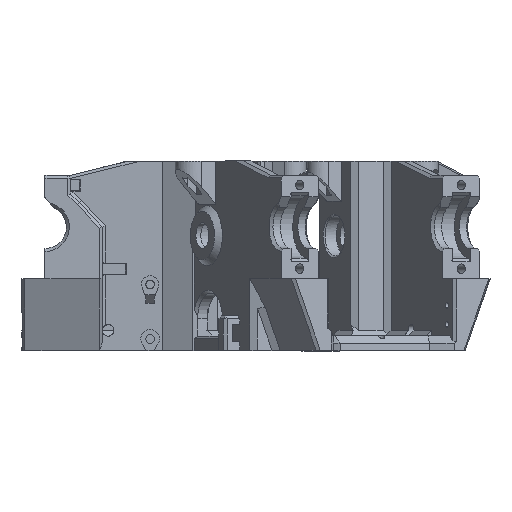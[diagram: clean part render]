
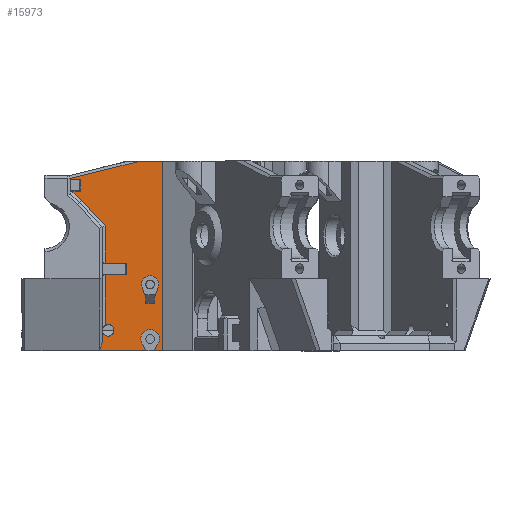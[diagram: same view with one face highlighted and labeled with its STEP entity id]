
A CAD part, top view. The second image highlights one B-rep face of the part: STEP entity #15973.
In plain terms, the highlighted planar face has unit normal (0, 0, 1).
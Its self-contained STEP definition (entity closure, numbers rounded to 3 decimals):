
#157=FACE_BOUND('',#1661,.T.);
#473=CIRCLE('',#16872,2.);
#474=CIRCLE('',#16873,3.25);
#475=CIRCLE('',#16874,3.);
#777=FACE_OUTER_BOUND('',#1660,.T.);
#1660=EDGE_LOOP('',(#11076,#11077,#11078,#11079,#11080,#11081,#11082,#11083,
#11084,#11085,#11086,#11087,#11088,#11089,#11090,#11091,#11092,#11093,#11094,
#11095,#11096,#11097,#11098,#11099));
#1661=EDGE_LOOP('',(#11100,#11101,#11102,#11103,#11104,#11105));
#2641=LINE('',#22177,#4644);
#2645=LINE('',#22186,#4648);
#2824=LINE('',#22588,#4827);
#2827=LINE('',#22594,#4830);
#2829=LINE('',#22598,#4832);
#2836=LINE('',#22612,#4839);
#2852=LINE('',#22646,#4855);
#2928=LINE('',#22796,#4931);
#2932=LINE('',#22803,#4935);
#2951=LINE('',#22880,#4954);
#2980=LINE('',#22939,#4983);
#2985=LINE('',#22947,#4988);
#2986=LINE('',#22950,#4989);
#2989=LINE('',#22955,#4992);
#2990=LINE('',#22956,#4993);
#2991=LINE('',#22957,#4994);
#2992=LINE('',#22960,#4995);
#2993=LINE('',#22962,#4996);
#2994=LINE('',#22966,#4997);
#2995=LINE('',#22967,#4998);
#2996=LINE('',#22969,#4999);
#2997=LINE('',#22970,#5000);
#2998=LINE('',#22973,#5001);
#2999=LINE('',#22977,#5002);
#3000=LINE('',#22979,#5003);
#3001=LINE('',#22981,#5004);
#3002=LINE('',#22982,#5005);
#4644=VECTOR('',#17926,10.);
#4648=VECTOR('',#17932,10.);
#4827=VECTOR('',#18227,10.);
#4830=VECTOR('',#18232,10.);
#4832=VECTOR('',#18236,10.);
#4839=VECTOR('',#18245,10.);
#4855=VECTOR('',#18271,10.);
#4931=VECTOR('',#18353,10.);
#4935=VECTOR('',#18357,10.);
#4954=VECTOR('',#18424,10.);
#4983=VECTOR('',#18477,10.);
#4988=VECTOR('',#18484,10.);
#4989=VECTOR('',#18487,10.);
#4992=VECTOR('',#18492,10.);
#4993=VECTOR('',#18493,10.);
#4994=VECTOR('',#18494,10.);
#4995=VECTOR('',#18497,10.);
#4996=VECTOR('',#18498,10.);
#4997=VECTOR('',#18501,10.);
#4998=VECTOR('',#18502,10.);
#4999=VECTOR('',#18503,10.);
#5000=VECTOR('',#18504,10.);
#5001=VECTOR('',#18505,10.);
#5002=VECTOR('',#18508,10.);
#5003=VECTOR('',#18509,10.);
#5004=VECTOR('',#18510,10.);
#5005=VECTOR('',#18511,10.);
#6644=VERTEX_POINT('',#22170);
#6647=VERTEX_POINT('',#22175);
#6648=VERTEX_POINT('',#22179);
#6651=VERTEX_POINT('',#22184);
#6806=VERTEX_POINT('',#22585);
#6807=VERTEX_POINT('',#22587);
#6809=VERTEX_POINT('',#22593);
#6810=VERTEX_POINT('',#22597);
#6815=VERTEX_POINT('',#22609);
#6816=VERTEX_POINT('',#22611);
#6828=VERTEX_POINT('',#22643);
#6829=VERTEX_POINT('',#22645);
#6834=VERTEX_POINT('',#22658);
#6899=VERTEX_POINT('',#22793);
#6900=VERTEX_POINT('',#22795);
#6903=VERTEX_POINT('',#22801);
#6951=VERTEX_POINT('',#22936);
#6952=VERTEX_POINT('',#22938);
#6955=VERTEX_POINT('',#22949);
#6957=VERTEX_POINT('',#22959);
#6958=VERTEX_POINT('',#22961);
#6959=VERTEX_POINT('',#22963);
#6960=VERTEX_POINT('',#22965);
#6961=VERTEX_POINT('',#22968);
#6962=VERTEX_POINT('',#22971);
#6963=VERTEX_POINT('',#22972);
#6964=VERTEX_POINT('',#22974);
#6965=VERTEX_POINT('',#22976);
#6966=VERTEX_POINT('',#22978);
#6967=VERTEX_POINT('',#22980);
#8211=EDGE_CURVE('',#6647,#6644,#2641,.T.);
#8215=EDGE_CURVE('',#6651,#6648,#2645,.T.);
#8413=EDGE_CURVE('',#6806,#6807,#2824,.T.);
#8416=EDGE_CURVE('',#6807,#6809,#2827,.T.);
#8418=EDGE_CURVE('',#6809,#6810,#2829,.T.);
#8425=EDGE_CURVE('',#6816,#6815,#2836,.T.);
#8442=EDGE_CURVE('',#6828,#6829,#2852,.T.);
#8518=EDGE_CURVE('',#6900,#6899,#2928,.T.);
#8522=EDGE_CURVE('',#6834,#6903,#2932,.T.);
#8560=EDGE_CURVE('',#6834,#6815,#2951,.F.);
#8590=EDGE_CURVE('',#6951,#6952,#2980,.T.);
#8595=EDGE_CURVE('',#6951,#6644,#2985,.T.);
#8596=EDGE_CURVE('',#6952,#6955,#2986,.T.);
#8599=EDGE_CURVE('',#6647,#6810,#2989,.T.);
#8600=EDGE_CURVE('',#6806,#6648,#2990,.T.);
#8601=EDGE_CURVE('',#6651,#6829,#2991,.T.);
#8602=EDGE_CURVE('',#6828,#6816,#473,.T.);
#8603=EDGE_CURVE('',#6903,#6957,#2992,.T.);
#8604=EDGE_CURVE('',#6957,#6958,#2993,.T.);
#8605=EDGE_CURVE('',#6958,#6959,#474,.T.);
#8606=EDGE_CURVE('',#6959,#6960,#2994,.T.);
#8607=EDGE_CURVE('',#6960,#6900,#2995,.T.);
#8608=EDGE_CURVE('',#6961,#6899,#2996,.T.);
#8609=EDGE_CURVE('',#6961,#6955,#2997,.T.);
#8610=EDGE_CURVE('',#6962,#6963,#2998,.T.);
#8611=EDGE_CURVE('',#6963,#6964,#475,.T.);
#8612=EDGE_CURVE('',#6964,#6965,#2999,.T.);
#8613=EDGE_CURVE('',#6965,#6966,#3000,.T.);
#8614=EDGE_CURVE('',#6966,#6967,#3001,.T.);
#8615=EDGE_CURVE('',#6967,#6962,#3002,.T.);
#11076=ORIENTED_EDGE('',*,*,#8599,.T.);
#11077=ORIENTED_EDGE('',*,*,#8418,.F.);
#11078=ORIENTED_EDGE('',*,*,#8416,.F.);
#11079=ORIENTED_EDGE('',*,*,#8413,.F.);
#11080=ORIENTED_EDGE('',*,*,#8600,.T.);
#11081=ORIENTED_EDGE('',*,*,#8215,.F.);
#11082=ORIENTED_EDGE('',*,*,#8601,.T.);
#11083=ORIENTED_EDGE('',*,*,#8442,.F.);
#11084=ORIENTED_EDGE('',*,*,#8602,.T.);
#11085=ORIENTED_EDGE('',*,*,#8425,.T.);
#11086=ORIENTED_EDGE('',*,*,#8560,.F.);
#11087=ORIENTED_EDGE('',*,*,#8522,.T.);
#11088=ORIENTED_EDGE('',*,*,#8603,.T.);
#11089=ORIENTED_EDGE('',*,*,#8604,.T.);
#11090=ORIENTED_EDGE('',*,*,#8605,.T.);
#11091=ORIENTED_EDGE('',*,*,#8606,.T.);
#11092=ORIENTED_EDGE('',*,*,#8607,.T.);
#11093=ORIENTED_EDGE('',*,*,#8518,.T.);
#11094=ORIENTED_EDGE('',*,*,#8608,.F.);
#11095=ORIENTED_EDGE('',*,*,#8609,.T.);
#11096=ORIENTED_EDGE('',*,*,#8596,.F.);
#11097=ORIENTED_EDGE('',*,*,#8590,.F.);
#11098=ORIENTED_EDGE('',*,*,#8595,.T.);
#11099=ORIENTED_EDGE('',*,*,#8211,.F.);
#11100=ORIENTED_EDGE('',*,*,#8610,.T.);
#11101=ORIENTED_EDGE('',*,*,#8611,.T.);
#11102=ORIENTED_EDGE('',*,*,#8612,.T.);
#11103=ORIENTED_EDGE('',*,*,#8613,.T.);
#11104=ORIENTED_EDGE('',*,*,#8614,.T.);
#11105=ORIENTED_EDGE('',*,*,#8615,.T.);
#15254=PLANE('',#16871);
#15973=ADVANCED_FACE('',(#777,#157),#15254,.T.);
#16871=AXIS2_PLACEMENT_3D('',#22954,#18490,#18491);
#16872=AXIS2_PLACEMENT_3D('',#22958,#18495,#18496);
#16873=AXIS2_PLACEMENT_3D('',#22964,#18499,#18500);
#16874=AXIS2_PLACEMENT_3D('',#22975,#18506,#18507);
#17926=DIRECTION('',(0.,1.,0.));
#17932=DIRECTION('',(0.,1.,0.));
#18227=DIRECTION('',(0.,1.,0.));
#18232=DIRECTION('',(-0.685,0.728,0.));
#18236=DIRECTION('',(-0.707,0.707,0.));
#18245=DIRECTION('',(0.,-1.,0.));
#18271=DIRECTION('',(0.,1.,0.));
#18353=DIRECTION('',(1.,0.,0.));
#18357=DIRECTION('',(1.,0.,0.));
#18424=DIRECTION('',(-0.348,-0.937,0.));
#18477=DIRECTION('',(0.,1.,0.));
#18484=DIRECTION('',(1.,0.,0.));
#18487=DIRECTION('',(0.971,0.24,0.));
#18490=DIRECTION('center_axis',(0.,0.,1.));
#18491=DIRECTION('ref_axis',(1.,0.,0.));
#18492=DIRECTION('',(-1.,0.,0.));
#18493=DIRECTION('',(1.,0.,0.));
#18494=DIRECTION('',(-1.,0.,0.));
#18495=DIRECTION('center_axis',(0.,0.,-1.));
#18496=DIRECTION('ref_axis',(-1.,0.,0.));
#18497=DIRECTION('',(0.,1.,0.));
#18498=DIRECTION('',(-0.444,0.896,0.));
#18499=DIRECTION('center_axis',(0.,0.,-1.));
#18500=DIRECTION('ref_axis',(-1.,0.,0.));
#18501=DIRECTION('',(-0.444,-0.896,0.));
#18502=DIRECTION('',(0.,-1.,0.));
#18503=DIRECTION('',(0.,-1.,0.));
#18504=DIRECTION('',(-1.,0.,0.));
#18505=DIRECTION('',(-0.342,0.94,0.));
#18506=DIRECTION('center_axis',(0.,0.,-1.));
#18507=DIRECTION('ref_axis',(-1.,0.,0.));
#18508=DIRECTION('',(-0.342,-0.94,0.));
#18509=DIRECTION('',(0.,-1.,0.));
#18510=DIRECTION('',(-1.,0.,0.));
#18511=DIRECTION('',(0.,1.,0.));
#22170=CARTESIAN_POINT('',(12.3,16.579,0.));
#22175=CARTESIAN_POINT('',(12.3,12.521,0.));
#22177=CARTESIAN_POINT('',(12.3,1.062,0.));
#22179=CARTESIAN_POINT('',(28.3,-12.521,0.));
#22184=CARTESIAN_POINT('',(28.3,-16.579,0.));
#22186=CARTESIAN_POINT('',(28.3,-13.488,0.));
#22585=CARTESIAN_POINT('',(21.,-12.521,0.));
#22587=CARTESIAN_POINT('',(21.,0.397,0.));
#22588=CARTESIAN_POINT('',(21.,-18.704,0.));
#22593=CARTESIAN_POINT('',(12.718,9.196,0.));
#22594=CARTESIAN_POINT('',(21.767,-0.419,0.));
#22597=CARTESIAN_POINT('',(9.393,12.521,0.));
#22598=CARTESIAN_POINT('',(21.252,0.662,0.));
#22609=CARTESIAN_POINT('',(20.,-40.307,0.));
#22611=CARTESIAN_POINT('',(20.,-36.,0.));
#22612=CARTESIAN_POINT('',(20.,-6.213,0.));
#22643=CARTESIAN_POINT('',(21.,-34.268,0.));
#22645=CARTESIAN_POINT('',(21.,-16.579,0.));
#22646=CARTESIAN_POINT('',(21.,-18.704,0.));
#22658=CARTESIAN_POINT('',(19.,-43.,0.));
#22793=CARTESIAN_POINT('',(41.,-43.,0.));
#22795=CARTESIAN_POINT('',(38.15,-43.,0.));
#22796=CARTESIAN_POINT('',(-8.,-43.,0.));
#22801=CARTESIAN_POINT('',(35.15,-43.,0.));
#22803=CARTESIAN_POINT('',(-8.,-43.,0.));
#22880=CARTESIAN_POINT('',(28.012,-18.734,0.));
#22936=CARTESIAN_POINT('',(9.,16.579,0.));
#22938=CARTESIAN_POINT('',(9.,17.02,0.));
#22939=CARTESIAN_POINT('',(9.,18.16,0.));
#22947=CARTESIAN_POINT('',(18.626,16.579,0.));
#22949=CARTESIAN_POINT('',(33.162,23.,0.));
#22950=CARTESIAN_POINT('',(24.757,20.92,0.));
#22954=CARTESIAN_POINT('Origin',(28.253,-12.426,0.));
#22955=CARTESIAN_POINT('',(18.626,12.521,0.));
#22956=CARTESIAN_POINT('',(24.126,-12.521,0.));
#22957=CARTESIAN_POINT('',(24.126,-16.579,0.));
#22958=CARTESIAN_POINT('Origin',(22.,-36.,0.));
#22959=CARTESIAN_POINT('',(35.15,-42.983,0.));
#22960=CARTESIAN_POINT('',(35.15,-27.713,0.));
#22961=CARTESIAN_POINT('',(34.274,-41.218,0.));
#22962=CARTESIAN_POINT('',(28.168,-28.908,0.));
#22963=CARTESIAN_POINT('',(39.026,-41.218,0.));
#22964=CARTESIAN_POINT('Origin',(36.65,-39.,0.));
#22965=CARTESIAN_POINT('',(38.15,-42.983,0.));
#22966=CARTESIAN_POINT('',(43.474,-32.251,0.));
#22967=CARTESIAN_POINT('',(38.15,-27.155,0.));
#22968=CARTESIAN_POINT('',(41.,23.,0.));
#22969=CARTESIAN_POINT('',(41.,5.287,0.));
#22970=CARTESIAN_POINT('',(60.,23.,0.));
#22971=CARTESIAN_POINT('',(35.15,-24.648,0.));
#22972=CARTESIAN_POINT('',(33.832,-21.028,0.));
#22973=CARTESIAN_POINT('',(32.452,-17.239,0.));
#22974=CARTESIAN_POINT('',(39.468,-21.028,0.));
#22975=CARTESIAN_POINT('Origin',(36.65,-20.,0.));
#22976=CARTESIAN_POINT('',(38.15,-24.648,0.));
#22977=CARTESIAN_POINT('',(39.865,-19.939,0.));
#22978=CARTESIAN_POINT('',(38.15,-26.598,0.));
#22979=CARTESIAN_POINT('',(38.15,-17.512,0.));
#22980=CARTESIAN_POINT('',(35.15,-26.598,0.));
#22981=CARTESIAN_POINT('',(33.201,-26.598,0.));
#22982=CARTESIAN_POINT('',(35.15,-19.512,0.));
